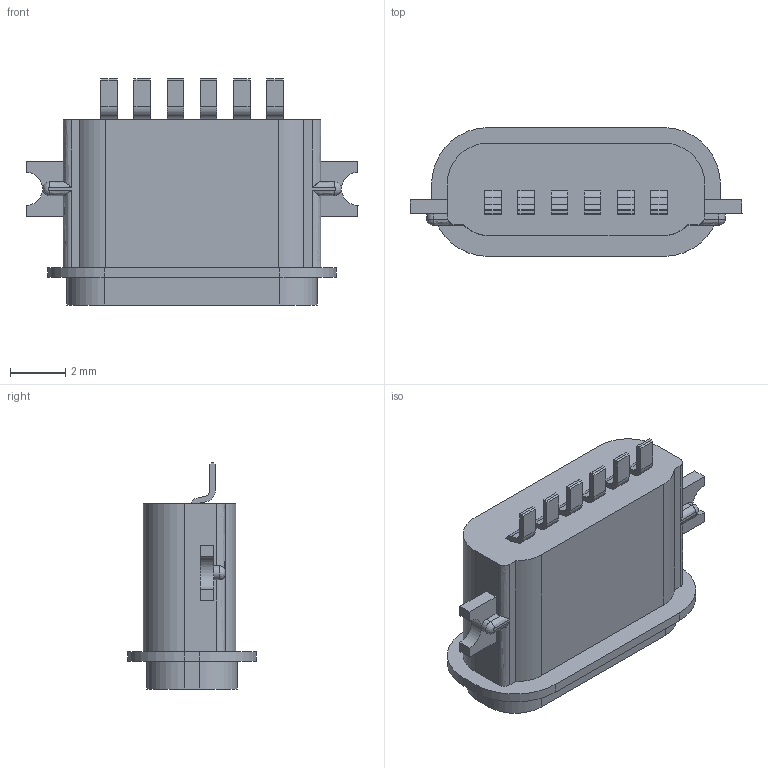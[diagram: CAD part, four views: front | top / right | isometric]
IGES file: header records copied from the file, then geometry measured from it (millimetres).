
Start section:  PTC IGES file: 009.igs
Global section: file name: 009.igs; native system: Creo Parametric by PTC Inc.; preprocessor: 2019080; author: Administrator; organization: Unknown; date: 20230420.162453; units: millimetre
Bounding box: 12 x 4.66 x 8.17 mm (x, y, z)
Surface area: 439.4 mm2 (no closed solid volume)
Topology: 0 solids, 0 shells, 473 faces, 2620 edges, 2612 vertices
Faces by surface type: bspline 363, revolution 110
